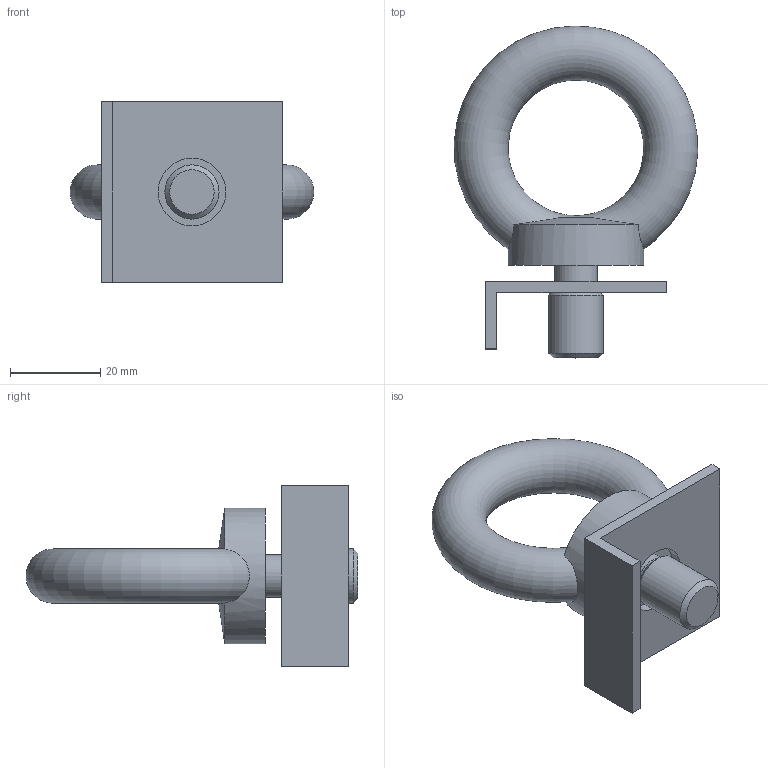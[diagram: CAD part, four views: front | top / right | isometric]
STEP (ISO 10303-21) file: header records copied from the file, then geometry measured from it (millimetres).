
FILE_DESCRIPTION( ( 'STEP AP214' ), '1' );
FILE_NAME( 'p:/temp/worker_110/temp/exporttempdir_5072_450_OBcaO/format_0/AL9301(0).stp', '2021-03-15T13:06:13', ( 'License CC BY-ND 4.0' ), ( 'CADENAS' ), ' ', 'PARTsolutions', ' ' );
FILE_SCHEMA( ( 'AUTOMOTIVE_DESIGN { 1 0 10303 214 1 1 1 1 }' ) );
Length unit declared in the file: millimetre
Products named in the file (3): AL9301(0); _AL9301(0)_P2; _AL9301(0)_P1
Assembly tree (2 placements, depth 2):
  AL9301(0)
    _AL9301(0)_P2
    _AL9301(0)_P1
Bounding box: 53.92 x 73.49 x 40 mm (x, y, z)
Volume: 25878.9 mm3; surface area: 11268.6 mm2
Topology: 2 solids, 2 shells, 22 faces, 50 edges, 32 vertices
Faces by surface type: plane 12, cone 4, cylinder 4, torus 2
Full cylindrical faces by diameter (mm): 9.5 x1, 12 x1, 15 x1, 30 x1
Entity records: 912 total; most frequent: CARTESIAN_POINT 236, DIRECTION 94, ORIENTED_EDGE 78, EDGE_CURVE 39, AXIS2_PLACEMENT_3D 38, EDGE_LOOP 32, VERTEX_POINT 30, FACE_OUTER_BOUND 26
